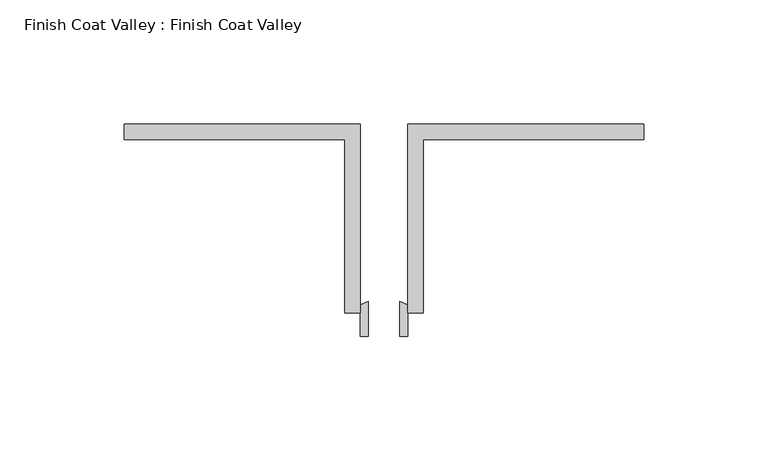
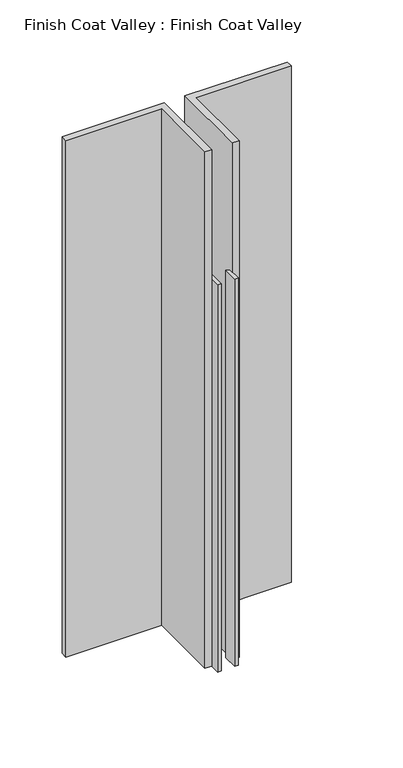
"""IFC4 building model written with IfcOpenShell, lengths in millimetres: proxy geometry, Finish Coat Valley : Finish Coat Valley."""

import ifcopenshell
import ifcopenshell.guid

model = None  # the IFC model being written
_history = None  # IfcOwnerHistory: only IFC2X3 demands one
_inside = {}  # id of a spatial element -> (the spatial element, [elements in it])
_under = {}  # id of a project, library or spatial element -> (it, [spatial elements below it])
_declared = {}  # id of a project -> (the project, [libraries it declares])
_typed = {}  # id of a type object -> (the type object, [elements of that type])
_made_of = {}  # id of a material, layer set ... -> (it, [elements and type objects made of it])


def new_model(schema):
    """Start an empty IFC model of exactly this schema.

    Asked for "IFC4X3", IfcOpenShell would pick the latest addendum, in which some entities
    have other attributes; the version numbers below select the first issue.
    IFC2X3 requires an IfcOwnerHistory on every rooted entity: one is made here for all.
    """
    global model, _history
    if schema == "IFC4X3":
        model = ifcopenshell.file(schema_version=(4, 3, 0, 0))
    else:
        model = ifcopenshell.file(schema=schema)
    _inside.clear()
    _under.clear()
    _declared.clear()
    _typed.clear()
    _made_of.clear()
    _history = None
    if model.schema == "IFC2X3":
        org = make("IfcOrganization", Name="unknown")
        user = make(
            "IfcPersonAndOrganization",
            ThePerson=make("IfcPerson", FamilyName="unknown"),
            TheOrganization=org,
        )
        app = make(
            "IfcApplication",
            ApplicationDeveloper=org,
            Version="unknown",
            ApplicationFullName="unknown",
            ApplicationIdentifier="unknown",
        )
        _history = make(
            "IfcOwnerHistory",
            OwningUser=user,
            OwningApplication=app,
            ChangeAction="ADDED",
            CreationDate=0,
        )
    return model


def make(cls, **values):
    """One entity of the class cls with the attributes given. An attribute that is None is left unset."""
    return model.create_entity(
        cls, **{name: value for name, value in values.items() if value is not None}
    )


def rooted(cls, **values):
    """An entity with a GlobalId (a new one), such as an element, a storey or a relation."""
    return make(cls, GlobalId=ifcopenshell.guid.new(), OwnerHistory=_history, **values)


def si_unit(unit_type, name, prefix=None):
    """IfcSIUnit, for example si_unit("LENGTHUNIT", "METRE", prefix="MILLI")."""
    return make("IfcSIUnit", UnitType=unit_type, Prefix=prefix, Name=name)


def assignment(units):
    """IfcUnitAssignment: the units of a project."""
    return None if units is None else make("IfcUnitAssignment", Units=units)


def point(xyz):
    """IfcCartesianPoint."""
    return None if xyz is None else make("IfcCartesianPoint", Coordinates=xyz)


def direction(xyz):
    """IfcDirection."""
    return None if xyz is None else make("IfcDirection", DirectionRatios=xyz)


def frame(location, z_axis=None, x_axis=None):
    """IfcAxis2Placement3D, a coordinate frame: its origin and axes. An axis left out is left unset."""
    return make(
        "IfcAxis2Placement3D",
        Location=point(location),
        Axis=direction(z_axis),
        RefDirection=direction(x_axis),
    )


def frame_2d(location, x_axis=None):
    """IfcAxis2Placement2D, a coordinate frame in the plane: its origin and x axis."""
    return make(
        "IfcAxis2Placement2D", Location=point(location), RefDirection=direction(x_axis)
    )


def origin():
    """The frame at (0, 0, 0) with its axes left unset."""
    return frame((0.0, 0.0, 0.0))


def origin_with_axes():
    """The frame at (0, 0, 0) with the z axis (0, 0, 1) and the x axis (1, 0, 0) written out."""
    return frame((0.0, 0.0, 0.0), z_axis=(0.0, 0.0, 1.0), x_axis=(1.0, 0.0, 0.0))


def place(relative_to, where):
    """IfcLocalPlacement: puts the frame where relative to a parent placement (None: the world)."""
    return make(
        "IfcLocalPlacement", PlacementRelTo=relative_to, RelativePlacement=where
    )


def context(
    kind, dimensions, precision=None, world=None, true_north=None, identifier=None
):
    """IfcGeometricRepresentationContext, for example the 3D "Model" context."""
    return make(
        "IfcGeometricRepresentationContext",
        ContextIdentifier=identifier,
        ContextType=kind,
        CoordinateSpaceDimension=dimensions,
        Precision=precision,
        WorldCoordinateSystem=world,
        TrueNorth=true_north,
    )


def project(units=None, contexts=None):
    """IfcProject with its units and contexts."""
    return rooted(
        "IfcProject",
        Name="project",
        RepresentationContexts=contexts,
        UnitsInContext=assignment(units),
    )


def spatial(cls, under=None, at=None, **own):
    """A site, building, storey or space (cls), placed at a placement, below another one or the project."""
    s = rooted(cls, ObjectPlacement=at, **own)
    if under is not None:
        _under.setdefault(under.id(), (under, []))[1].append(s)
    return s


def polyline(points):
    """IfcPolyline through the points."""
    return make("IfcPolyline", Points=[point(p) for p in points])


def circle_curve(where, radius):
    """IfcCircle in the frame where."""
    return make("IfcCircle", Position=where, Radius=radius)


def trimmed(basis, trim1, trim2, sense, master):
    """IfcTrimmedCurve: the piece of a basis curve between two trims."""
    return make(
        "IfcTrimmedCurve",
        BasisCurve=basis,
        Trim1=trim1,
        Trim2=trim2,
        SenseAgreement=sense,
        MasterRepresentation=master,
    )


def segment(curve, same_sense, transition):
    """IfcCompositeCurveSegment."""
    return make(
        "IfcCompositeCurveSegment",
        Transition=transition,
        SameSense=same_sense,
        ParentCurve=curve,
    )


def composite_curve(segments, self_intersect=None):
    """IfcCompositeCurve: segments joined end to end."""
    return make("IfcCompositeCurve", Segments=segments, SelfIntersect=self_intersect)


def outline(outer, holes=None, kind="AREA"):
    """IfcArbitraryClosedProfileDef: a profile drawn as a closed curve; with holes, ...WithVoids."""
    if holes is None:
        return make("IfcArbitraryClosedProfileDef", ProfileType=kind, OuterCurve=outer)
    return make(
        "IfcArbitraryProfileDefWithVoids",
        ProfileType=kind,
        OuterCurve=outer,
        InnerCurves=holes,
    )


def extrude(swept, where, along, depth):
    """IfcExtrudedAreaSolid: the profile swept, set in the frame where, extruded along a direction by depth."""
    return make(
        "IfcExtrudedAreaSolid",
        SweptArea=swept,
        Position=where,
        ExtrudedDirection=direction(along),
        Depth=depth,
    )


def shape(context_of_items, identifier, shape_type, items):
    """IfcShapeRepresentation: the items that make up one representation, for example the "Body"."""
    return make(
        "IfcShapeRepresentation",
        ContextOfItems=context_of_items,
        RepresentationIdentifier=identifier,
        RepresentationType=shape_type,
        Items=items,
    )


def source(mapping_origin, context_of_items, identifier, shape_type, items):
    """IfcRepresentationMap: a shape defined once, which mapped items show again and again."""
    return make(
        "IfcRepresentationMap",
        MappingOrigin=mapping_origin,
        MappedRepresentation=shape(context_of_items, identifier, shape_type, items),
    )


def transform(
    local_origin,
    x_axis=None,
    y_axis=None,
    z_axis=None,
    scale=None,
    scale2=None,
    scale3=None,
    uniform=True,
):
    """IfcCartesianTransformationOperator3D, or its non-uniform kind. x_axis, y_axis, z_axis: its Axis1, 2, 3."""
    if uniform:
        return make(
            "IfcCartesianTransformationOperator3D",
            Axis1=direction(x_axis),
            Axis2=direction(y_axis),
            LocalOrigin=point(local_origin),
            Scale=scale,
            Axis3=direction(z_axis),
        )
    return make(
        "IfcCartesianTransformationOperator3DnonUniform",
        Axis1=direction(x_axis),
        Axis2=direction(y_axis),
        LocalOrigin=point(local_origin),
        Scale=scale,
        Axis3=direction(z_axis),
        Scale2=scale2,
        Scale3=scale3,
    )


def mapped(mapping_source, mapping_target):
    """IfcMappedItem: shows the shape of a source again, moved by a transform."""
    return make(
        "IfcMappedItem", MappingSource=mapping_source, MappingTarget=mapping_target
    )


def made_of(thing, what):
    """Note that an element or type object is made of a material, layer set ...; save() writes the relation."""
    if what is not None:
        _made_of.setdefault(what.id(), (what, []))[1].append(thing)
    return thing


def element(
    cls,
    number,
    at=None,
    inside=None,
    cuts=None,
    type_object=None,
    material=None,
    context=None,
    identifier="Body",
    shape_type=None,
    held_by="IfcProductDefinitionShape",
    body=None,
    shapes=None,
    **own,
):
    """One element of the class cls, such as IfcWall. Its Tag is "e" and its number.

    at: its placement. inside: the storey or other place that contains it. cuts: it is an
    opening in that element (IfcRelVoidsElement). A single representation is given by context,
    identifier, shape_type and body (its items); several are given by shapes. held_by: the class
    of the entity that holds the representations. save() writes the other relations.
    """
    e = rooted(cls, Tag="e%d" % number, ObjectPlacement=at, **own)
    if body is not None:
        shapes = [shape(context, identifier, shape_type, body)]
    if shapes is not None:
        e.Representation = make(held_by, Representations=shapes)
    if inside is not None:
        _inside.setdefault(inside.id(), (inside, []))[1].append(e)
    if cuts is not None:
        rooted(
            "IfcRelVoidsElement", RelatingBuildingElement=cuts, RelatedOpeningElement=e
        )
    if type_object is not None:
        _typed.setdefault(type_object.id(), (type_object, []))[1].append(e)
    return made_of(e, material)


def aggregate(whole, parts):
    """IfcRelAggregates: a whole, such as a stair, and the parts it consists of."""
    return rooted("IfcRelAggregates", RelatingObject=whole, RelatedObjects=parts)


def save(model, path):
    """Write the relations noted so far, then the file.

    IfcRelAggregates (storeys below a building ...), IfcRelContainedInSpatialStructure (elements
    in a storey), IfcRelDefinesByType, IfcRelAssociatesMaterial and IfcRelDeclares: one each for
    every whole, place, type object, material and project.
    """
    for whole, parts in _under.values():
        aggregate(whole, parts)
    for where, things in _inside.values():
        rooted(
            "IfcRelContainedInSpatialStructure",
            RelatedElements=things,
            RelatingStructure=where,
        )
    for kind, things in _typed.values():
        rooted("IfcRelDefinesByType", RelatedObjects=things, RelatingType=kind)
    for what, things in _made_of.values():
        rooted("IfcRelAssociatesMaterial", RelatedObjects=things, RelatingMaterial=what)
    for by, libraries in _declared.values():
        rooted("IfcRelDeclares", RelatingContext=by, RelatedDefinitions=libraries)
    model.write(path)


def finish_coat_valley_finish_coat_valley_8a1e8f0d(model_context):
    return source(origin(), model_context, "Body", "SweptSolid", [
        extrude(outline(polyline([(26834.4539273, 548.2566297), (26834.4539273, 624.4566297), (26929.7039273, 624.4566297), (26929.7039273, 618.1066297), (26840.8039273, 618.1066297), (26840.8039273, 548.2566297), (26834.4539273, 548.2566297)])), origin_with_axes(), (0.0, 0.0, 1.0), 508.0),
        extrude(outline(polyline([(26815.4039273, 624.4566297), (26815.4039273, 548.2566297), (26809.0539273, 548.2566297), (26809.0539273, 618.1066297), (26720.1539273, 618.1066297), (26720.1539273, 624.4566297), (26815.4039273, 624.4566297)])), origin_with_axes(), (0.0, 0.0, 1.0), 508.0),
        extrude(outline(composite_curve([segment(trimmed(circle_curve(frame_2d((26824.9289273, 534.9338457)), 19.05), [point((26815.4039273, 551.4316297))], [point((26818.5789273, 552.894358))], False, "CARTESIAN"), True, "CONTINUOUS"), segment(polyline([(26818.5789273, 552.894358), (26818.5789273, 538.7316297), (26815.4039273, 538.7316297), (26815.4039273, 551.4316297)]), True, "CONTINUOUS")], self_intersect=False)), origin_with_axes(), (0.0, 0.0, 1.0), 381.0),
        extrude(outline(composite_curve([segment(polyline([(26834.4539273, 538.7316297), (26831.2789273, 538.7316297), (26831.2789273, 552.894358)]), True, "CONTINUOUS"), segment(trimmed(circle_curve(frame_2d((26824.9289273, 534.9338457)), 19.05), [point((26831.2789273, 552.894358))], [point((26834.4539273, 551.4316297))], False, "CARTESIAN"), True, "CONTINUOUS"), segment(polyline([(26834.4539273, 551.4316297), (26834.4539273, 538.7316297)]), True, "CONTINUOUS")], self_intersect=False)), origin_with_axes(), (0.0, 0.0, 1.0), 381.0),
    ])


if __name__ == "__main__":
    model = new_model("IFC4")
    model_context = context("Model", 3, world=origin())
    ifc_project = project(units=[si_unit("LENGTHUNIT", "METRE", prefix="MILLI")], contexts=[model_context])
    site = spatial("IfcSite", under=ifc_project)
    building = spatial("IfcBuilding", under=site)
    placement = place(None, origin())
    finish_coat_valley_finish_coat_valley_shape = finish_coat_valley_finish_coat_valley_8a1e8f0d(model_context)
    element("IfcBuildingElementProxy", 1, Name="Finish Coat Valley : Finish Coat Valley", ObjectType="Finish Coat Valley : Finish Coat Valley", at=placement, inside=building, context=model_context, shape_type="MappedRepresentation", body=[
        mapped(finish_coat_valley_finish_coat_valley_shape, transform((0.0, 0.0, 0.0), x_axis=(1.0, 0.0, 0.0), y_axis=(0.0, 1.0, 0.0), z_axis=(0.0, 0.0, 1.0))),
    ])
    save(model, "model.ifc")
